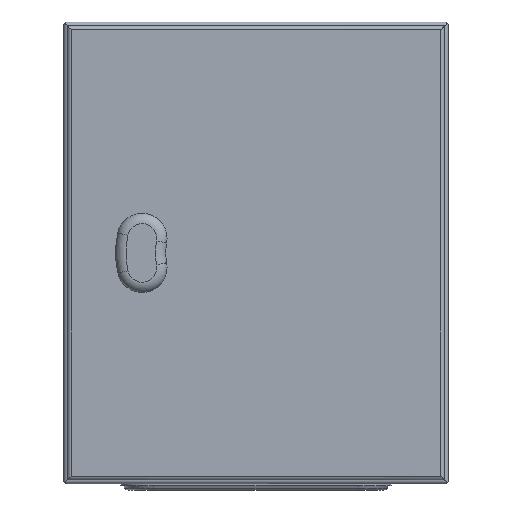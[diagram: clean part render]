
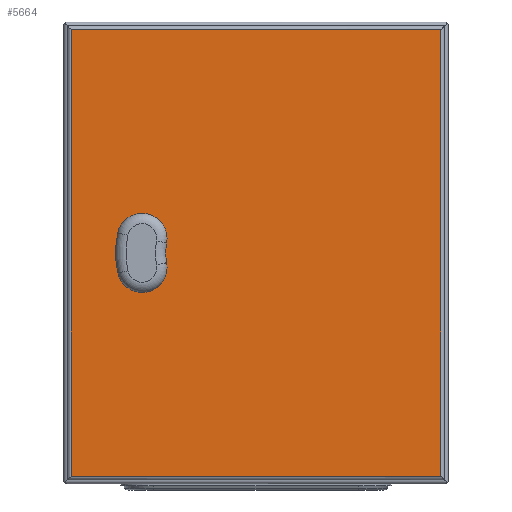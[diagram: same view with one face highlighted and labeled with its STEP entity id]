
A CAD part, front view. The second image highlights one B-rep face of the part: STEP entity #5664.
In plain terms, the highlighted planar face has unit normal (0, -1, 0).
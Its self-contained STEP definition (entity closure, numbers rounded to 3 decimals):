
#460=LINE('',#9263,#860);
#461=LINE('',#9266,#861);
#462=LINE('',#9268,#862);
#463=LINE('',#9270,#863);
#860=VECTOR('',#7444,1000.);
#861=VECTOR('',#7445,1000.);
#862=VECTOR('',#7446,1000.);
#863=VECTOR('',#7447,1000.);
#1674=ORIENTED_EDGE('',*,*,#2952,.F.);
#1675=ORIENTED_EDGE('',*,*,#2953,.T.);
#1676=ORIENTED_EDGE('',*,*,#2954,.T.);
#1677=ORIENTED_EDGE('',*,*,#2955,.T.);
#1678=ORIENTED_EDGE('',*,*,#2956,.F.);
#1679=ORIENTED_EDGE('',*,*,#2957,.F.);
#1680=ORIENTED_EDGE('',*,*,#2958,.T.);
#1681=ORIENTED_EDGE('',*,*,#2959,.T.);
#2952=EDGE_CURVE('',#3638,#3639,#4050,.T.);
#2953=EDGE_CURVE('',#3638,#3640,#4051,.T.);
#2954=EDGE_CURVE('',#3640,#3641,#4052,.T.);
#2955=EDGE_CURVE('',#3641,#3639,#4053,.T.);
#2956=EDGE_CURVE('',#3642,#3643,#460,.F.);
#2957=EDGE_CURVE('',#3644,#3642,#461,.T.);
#2958=EDGE_CURVE('',#3644,#3645,#462,.F.);
#2959=EDGE_CURVE('',#3645,#3643,#463,.T.);
#3638=VERTEX_POINT('',#9256);
#3639=VERTEX_POINT('',#9257);
#3640=VERTEX_POINT('',#9259);
#3641=VERTEX_POINT('',#9261);
#3642=VERTEX_POINT('',#9264);
#3643=VERTEX_POINT('',#9265);
#3644=VERTEX_POINT('',#9267);
#3645=VERTEX_POINT('',#9269);
#4050=CIRCLE('',#6232,34.3);
#4051=CIRCLE('',#6233,16.2);
#4052=CIRCLE('',#6234,60.7);
#4053=CIRCLE('',#6235,16.2);
#4482=EDGE_LOOP('',(#1674,#1675,#1676,#1677));
#4483=EDGE_LOOP('',(#1678,#1679,#1680,#1681));
#5038=FACE_BOUND('',#4482,.T.);
#5039=FACE_BOUND('',#4483,.T.);
#5434=PLANE('',#6231);
#5664=ADVANCED_FACE('',(#5038,#5039),#5434,.F.);
#6231=AXIS2_PLACEMENT_3D('',#9254,#7434,#7435);
#6232=AXIS2_PLACEMENT_3D('',#9255,#7436,#7437);
#6233=AXIS2_PLACEMENT_3D('',#9258,#7438,#7439);
#6234=AXIS2_PLACEMENT_3D('',#9260,#7440,#7441);
#6235=AXIS2_PLACEMENT_3D('',#9262,#7442,#7443);
#7434=DIRECTION('',(0.,1.,0.));
#7435=DIRECTION('',(0.,0.,1.));
#7436=DIRECTION('',(0.,1.,0.));
#7437=DIRECTION('',(1.,0.,0.));
#7438=DIRECTION('',(0.,1.,0.));
#7439=DIRECTION('',(1.,0.,0.));
#7440=DIRECTION('',(0.,1.,0.));
#7441=DIRECTION('',(1.,0.,0.));
#7442=DIRECTION('',(0.,1.,0.));
#7443=DIRECTION('',(1.,0.,0.));
#7444=DIRECTION('',(0.,0.,-1.));
#7445=DIRECTION('',(-1.,0.,0.));
#7446=DIRECTION('',(0.,0.,-1.));
#7447=DIRECTION('',(-1.,0.,0.));
#9254=CARTESIAN_POINT('',(0.,-16.5,0.));
#9255=CARTESIAN_POINT('',(-24.402,-16.5,0.));
#9256=CARTESIAN_POINT('',(-58.089,-16.5,-6.452));
#9257=CARTESIAN_POINT('',(-58.089,-16.5,6.452));
#9258=CARTESIAN_POINT('',(-74.,-16.5,-9.5));
#9259=CARTESIAN_POINT('',(-89.827,-16.5,-12.958));
#9260=CARTESIAN_POINT('',(-30.526,-16.5,0.));
#9261=CARTESIAN_POINT('',(-89.827,-16.5,12.958));
#9262=CARTESIAN_POINT('',(-74.,-16.5,9.5));
#9263=CARTESIAN_POINT('',(-120.,-16.5,150.));
#9264=CARTESIAN_POINT('',(-120.,-16.5,-145.));
#9265=CARTESIAN_POINT('',(-120.,-16.5,145.));
#9266=CARTESIAN_POINT('',(125.,-16.5,-145.));
#9267=CARTESIAN_POINT('',(120.,-16.5,-145.));
#9268=CARTESIAN_POINT('',(120.,-16.5,150.));
#9269=CARTESIAN_POINT('',(120.,-16.5,145.));
#9270=CARTESIAN_POINT('',(125.,-16.5,145.));
